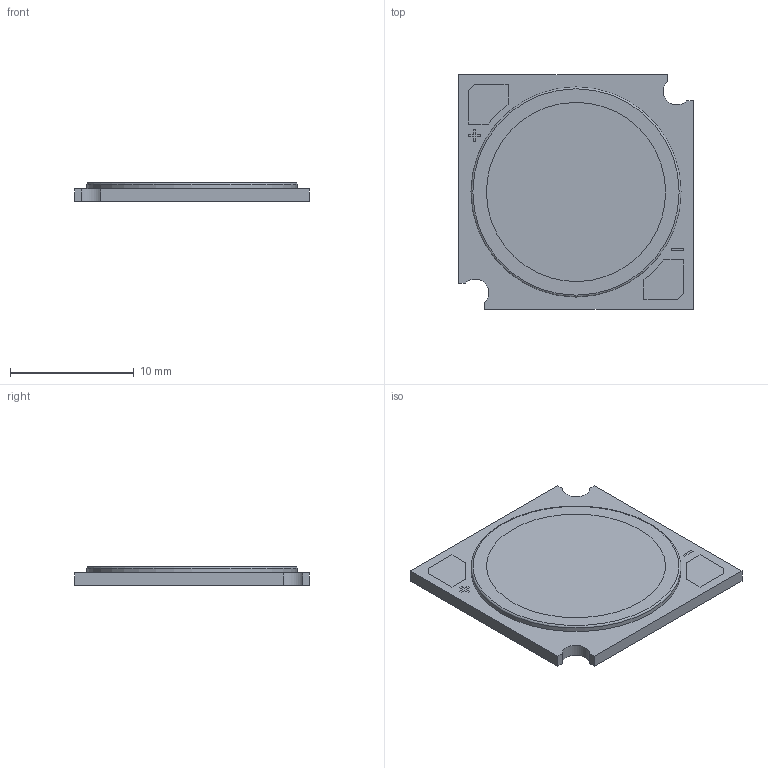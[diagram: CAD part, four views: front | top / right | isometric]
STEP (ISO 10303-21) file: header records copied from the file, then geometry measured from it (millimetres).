
FILE_DESCRIPTION(/* description */ (''),/* implementation_level */ '2;1');
FILE_NAME(/* name */ 'COB_1919.stp',/* time_stamp */ '2016-06-30T18:53:04+09:00',/* author */ (''),/* organization */ (''),/* preprocessor_version */ 'ST-DEVELOPER v15',/* originating_system */ 'SIEMENS PLM Software NX 8.5',/* authorisation */ '');
FILE_SCHEMA (('CONFIG_CONTROL_DESIGN'));
Length unit declared in the file: millimetre
Products named in the file (1): SLED-000008648_000
Bounding box: 19 x 19 x 1.5 mm (x, y, z)
Volume: 463.8 mm3; surface area: 801.4 mm2
Topology: 1 solids, 1 shells, 48 faces, 120 edges, 80 vertices
Faces by surface type: plane 42, cylinder 5, torus 1
Full cylindrical faces by diameter (mm): 17 x1
Entity records: 1579 total; most frequent: CARTESIAN_POINT 543, ORIENTED_EDGE 236, DIRECTION 142, EDGE_CURVE 118, VERTEX_POINT 80, EDGE_LOOP 56, AXIS2_PLACEMENT_3D 52, ADVANCED_FACE 48
